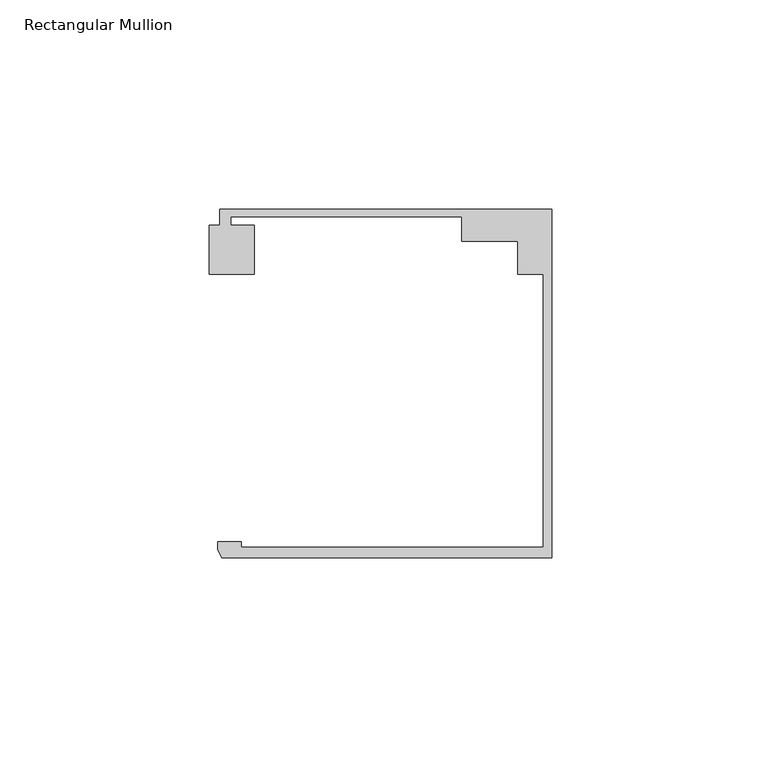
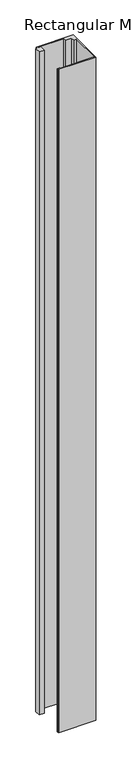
"""IFC4 building model written with IfcOpenShell, lengths in millimetres: member geometry, Rectangular Mullion : Danpal_Airpt_End-Mullion_B2."""

from ifc_helpers import new_model, si_unit, frame, origin, place, context, project, spatial, polyline, outline, extrude, source, transform, mapped, element, save


def rectangular_mullion_154195c3(model_context):
    return source(origin(), model_context, "Body", "SweptSolid", [
        extrude(outline(polyline([(-2.0000001, -74.9940824), (-2.0000001, -9.7188964), (-8.1, -9.7188964), (-8.1, -1.8818054), (-21.5478166, -1.8818054), (-21.5478166, 4.0051512), (-76.6478166, 4.0051512), (-76.6478166, 2.0051513), (-71.1433532, 2.0051513), (-71.1433532, -9.6875514), (-81.8592324, -9.6875514), (-81.8592324, 2.0051513), (-79.3474874, 2.0051513), (-79.3474874, 5.8051514), (0.0, 5.8051514), (0.0, -77.4940825), (-78.8515009, -77.4940825), (-79.7784606, -75.5472671), (-79.7784606, -73.6940824), (-74.2474668, -73.6940824), (-74.2474668, -74.9940824), (-2.0000001, -74.9940824)])), frame((0.0, 0.0, -1500.0), z_axis=(0.0, 0.0, 1.0), x_axis=(1.0, 0.0, 0.0)), (0.0, 0.0, 1.0), 1500.0),
    ])


if __name__ == "__main__":
    model = new_model("IFC4")
    model_context = context("Model", 3, world=origin())
    ifc_project = project(units=[si_unit("LENGTHUNIT", "METRE", prefix="MILLI")], contexts=[model_context])
    site = spatial("IfcSite", under=ifc_project)
    building = spatial("IfcBuilding", under=site)
    placement = place(None, origin())
    rectangular_mullion_shape = rectangular_mullion_154195c3(model_context)
    element("IfcMember", 1, ObjectType="Rectangular Mullion : Danpal_Airpt_End-Mullion_B2", at=placement, inside=building, context=model_context, shape_type="MappedRepresentation", body=[
        mapped(rectangular_mullion_shape, transform((0.0, 0.0, 0.0), x_axis=(1.0, 0.0, 0.0), y_axis=(0.0, 1.0, 0.0), z_axis=(0.0, 0.0, 1.0))),
    ])
    save(model, "model.ifc")
